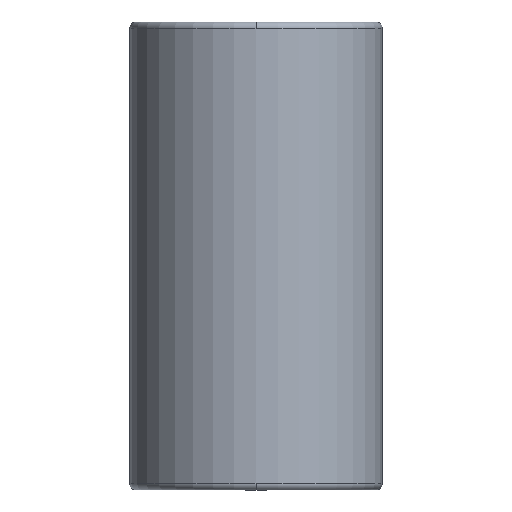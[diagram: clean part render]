
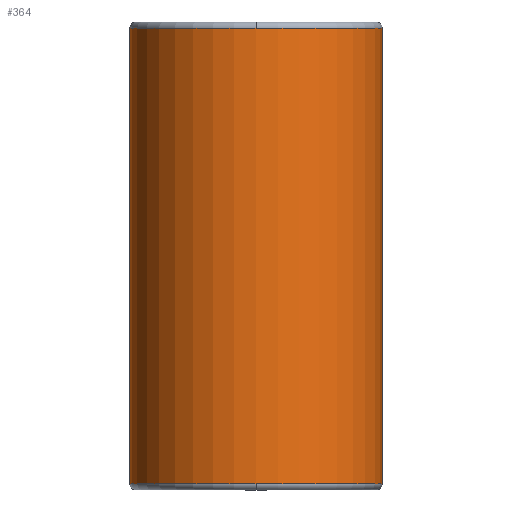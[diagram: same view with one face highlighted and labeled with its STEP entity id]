
A CAD part, front view. The second image highlights one B-rep face of the part: STEP entity #364.
In plain terms, the highlighted cylindrical face has radius 40.492 mm (diameter 80.984 mm), a partial arc.
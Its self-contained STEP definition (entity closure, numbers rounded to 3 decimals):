
#269=CARTESIAN_POINT('',(0.0,-40.492,148.0));
#270=VERTEX_POINT('',#269);
#296=CARTESIAN_POINT('',(-40.492,0.,148.0));
#297=VERTEX_POINT('',#296);
#305=CARTESIAN_POINT('',(0.0,0.,148.0));
#306=DIRECTION('',(0.0,0.0,1.0));
#307=DIRECTION('',(1.0,0.0,0.0));
#308=AXIS2_PLACEMENT_3D('',#305,#306,#307);
#309=CIRCLE('',#308,40.492);
#310=EDGE_CURVE('',#297,#270,#309,.T.);
#315=CARTESIAN_POINT('',(0.0,0.,75.0));
#316=DIRECTION('',(0.0,0.,1.0));
#317=DIRECTION('',(1.0,0.0,0.0));
#318=AXIS2_PLACEMENT_3D('',#315,#316,#317);
#319=CYLINDRICAL_SURFACE('',#318,40.492);
#320=CARTESIAN_POINT('',(40.492,0.,148.0));
#321=VERTEX_POINT('',#320);
#322=CARTESIAN_POINT('',(40.492,0.,2.));
#323=VERTEX_POINT('',#322);
#324=CARTESIAN_POINT('',(40.492,0.,148.0));
#325=DIRECTION('',(0.0,0.0,-1.0));
#326=VECTOR('',#325,146.0);
#327=LINE('',#324,#326);
#328=EDGE_CURVE('',#321,#323,#327,.T.);
#329=ORIENTED_EDGE('',*,*,#328,.F.);
#330=CARTESIAN_POINT('',(0.0,0.,148.0));
#331=DIRECTION('',(0.0,0.0,1.0));
#332=DIRECTION('',(1.0,0.0,0.0));
#333=AXIS2_PLACEMENT_3D('',#330,#331,#332);
#334=CIRCLE('',#333,40.492);
#335=EDGE_CURVE('',#270,#321,#334,.T.);
#336=ORIENTED_EDGE('',*,*,#335,.F.);
#337=ORIENTED_EDGE('',*,*,#310,.F.);
#338=CARTESIAN_POINT('',(-40.492,0.,2.0));
#339=VERTEX_POINT('',#338);
#340=CARTESIAN_POINT('',(-40.492,0.,148.0));
#341=DIRECTION('',(0.0,0.0,-1.0));
#342=VECTOR('',#341,146.0);
#343=LINE('',#340,#342);
#344=EDGE_CURVE('',#297,#339,#343,.T.);
#345=ORIENTED_EDGE('',*,*,#344,.T.);
#346=CARTESIAN_POINT('',(0.0,-40.492,2.));
#347=VERTEX_POINT('',#346);
#348=CARTESIAN_POINT('',(0.0,0.,2.0));
#349=DIRECTION('',(0.0,0.0,1.0));
#350=DIRECTION('',(1.0,0.0,0.0));
#351=AXIS2_PLACEMENT_3D('',#348,#349,#350);
#352=CIRCLE('',#351,40.492);
#353=EDGE_CURVE('',#339,#347,#352,.T.);
#354=ORIENTED_EDGE('',*,*,#353,.T.);
#355=CARTESIAN_POINT('',(0.0,0.,2.0));
#356=DIRECTION('',(0.0,0.0,1.0));
#357=DIRECTION('',(1.0,0.0,0.0));
#358=AXIS2_PLACEMENT_3D('',#355,#356,#357);
#359=CIRCLE('',#358,40.492);
#360=EDGE_CURVE('',#347,#323,#359,.T.);
#361=ORIENTED_EDGE('',*,*,#360,.T.);
#362=EDGE_LOOP('',(#329,#336,#337,#345,#354,#361));
#363=FACE_OUTER_BOUND('',#362,.T.);
#364=ADVANCED_FACE('',(#363),#319,.T.);
